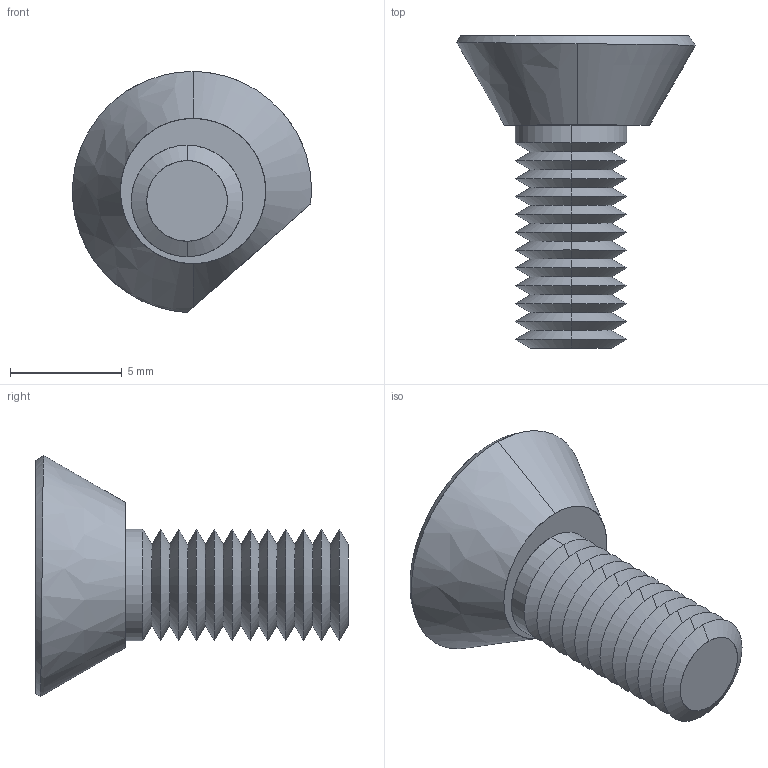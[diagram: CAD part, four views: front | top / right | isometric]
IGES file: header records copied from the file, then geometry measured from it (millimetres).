
Start section: SolidWorks IGES file using analytic representation for surfaces
Global section: file name: C:\Users\IanO\Desktop\Temp File\General\12111_v2\12111_v2_20180517_IGES\12111.W0005.igs; native system: SolidWorks 2017; preprocessor: SolidWorks 2017; author: IanO; date: 180522.151914; units: millimetre
Bounding box: 10.71 x 14 x 10.8 mm (x, y, z)
Surface area: 519.8 mm2 (no closed solid volume)
Topology: 0 solids, 0 shells, 76 faces, 562 edges, 560 vertices
Faces by surface type: revolution 59, bspline 17
